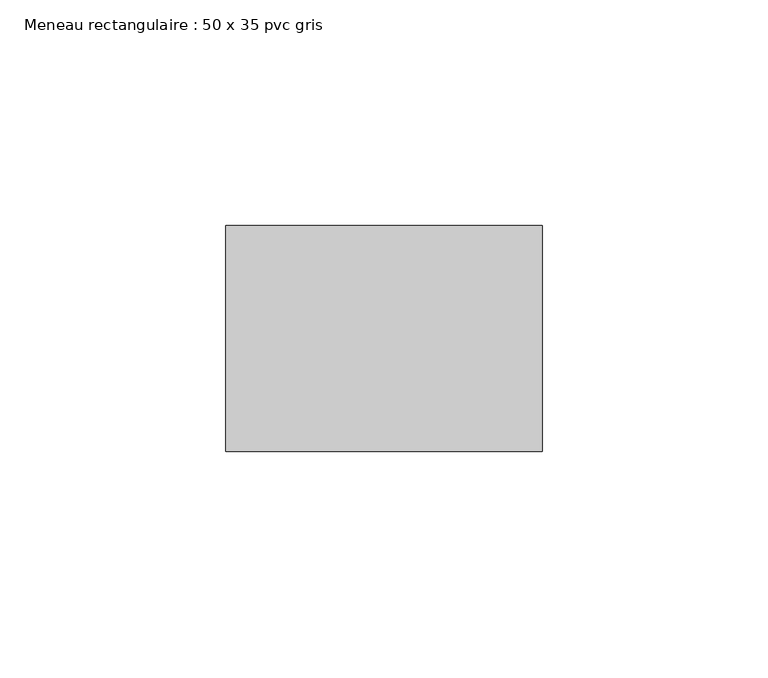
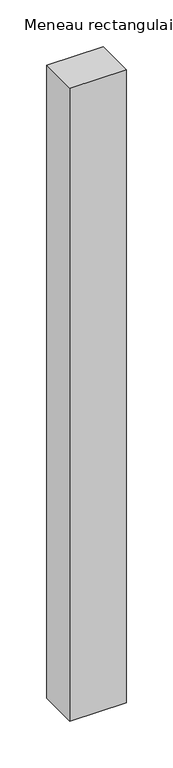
"""IFC4 building model written with IfcOpenShell, lengths in millimetres: member geometry, Meneau rectangulaire : 50 x 35 pvc gris."""

from ifc_helpers import new_model, si_unit, frame, origin, place, context, project, spatial, polyline, outline, extrude, source, transform, mapped, element, save


def meneau_rectangulaire_50_x_35_pvc_gris_15c030dd(model_context):
    return source(origin(), model_context, "Body", "SweptSolid", [
        extrude(outline(polyline([(35.0, 0.0), (35.0, -50.0), (-35.0, -50.0), (-35.0, 0.0), (35.0, 0.0)])), frame((0.0, 0.0, -829.6572324), z_axis=(0.0, 0.0, 1.0), x_axis=(1.0, 0.0, 0.0)), (0.0, 0.0, 1.0), 829.6572324),
    ])


if __name__ == "__main__":
    model = new_model("IFC4")
    model_context = context("Model", 3, world=origin())
    ifc_project = project(units=[si_unit("LENGTHUNIT", "METRE", prefix="MILLI")], contexts=[model_context])
    site = spatial("IfcSite", under=ifc_project)
    building = spatial("IfcBuilding", under=site)
    placement = place(None, origin())
    meneau_rectangulaire_50_x_35_pvc_gris_shape = meneau_rectangulaire_50_x_35_pvc_gris_15c030dd(model_context)
    element("IfcMember", 1, ObjectType="Meneau rectangulaire : 50 x 35 pvc gris", at=placement, inside=building, context=model_context, shape_type="MappedRepresentation", body=[
        mapped(meneau_rectangulaire_50_x_35_pvc_gris_shape, transform((0.0, 0.0, 0.0), x_axis=(1.0, 0.0, 0.0), y_axis=(0.0, 1.0, 0.0), z_axis=(0.0, 0.0, 1.0))),
    ])
    save(model, "model.ifc")
